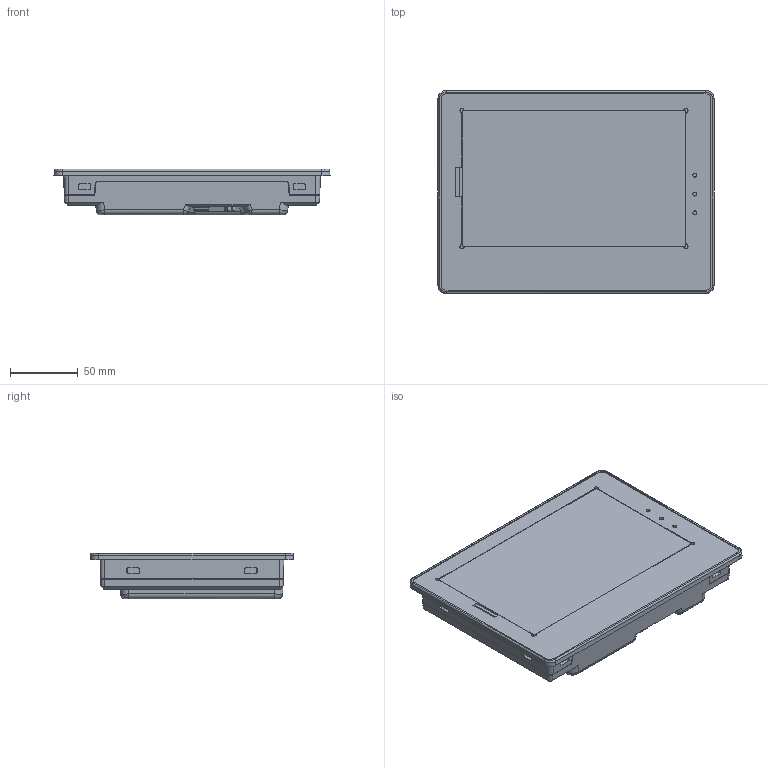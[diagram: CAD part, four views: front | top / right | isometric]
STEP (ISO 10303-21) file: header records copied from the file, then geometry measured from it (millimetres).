
FILE_DESCRIPTION (( 'STEP AP214' ), '1' );
FILE_NAME ('mk070.STEP', '2021-11-10T09:38:29', ( '' ), ( '' ), 'SwSTEP 2.0', 'SolidWorks 2020', '' );
FILE_SCHEMA (( 'AUTOMOTIVE_DESIGN' ));
Length unit declared in the file: millimetre
Products named in the file (1): mk070
Bounding box: 204 x 150 x 33.9 mm (x, y, z)
Volume: 298235.3 mm3; surface area: 256368.9 mm2
Topology: 14 solids, 14 shells, 2363 faces, 6458 edges, 4164 vertices
Faces by surface type: plane 987, bspline 790, cylinder 460, cone 126
Entity records: 192911 total; most frequent: CARTESIAN_POINT 116721, ORIENTED_EDGE 12908, EDGE_CURVE 6454, DIRECTION 6262, VERTEX_POINT 4164, B_SPLINE_CURVE_WITH_KNOTS 3570, EDGE_LOOP 2610, UNCERTAINTY_MEASURE_WITH_UNIT 2379
